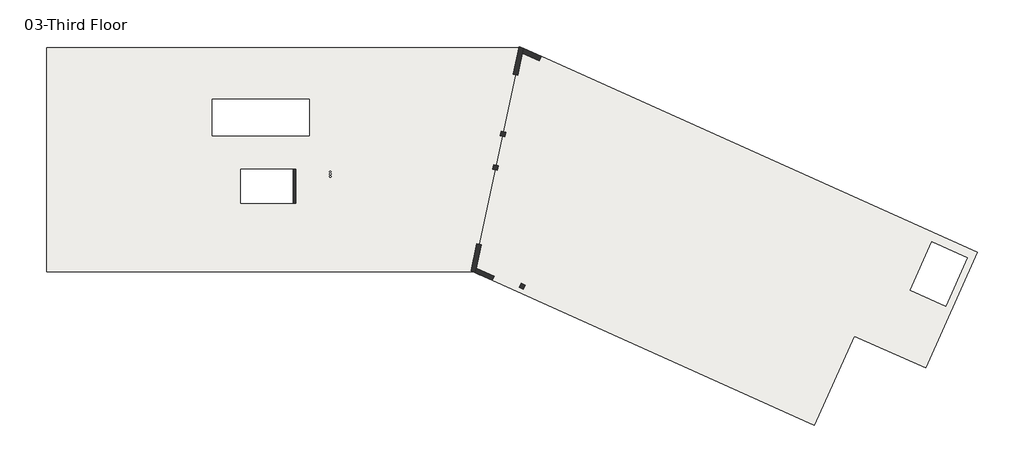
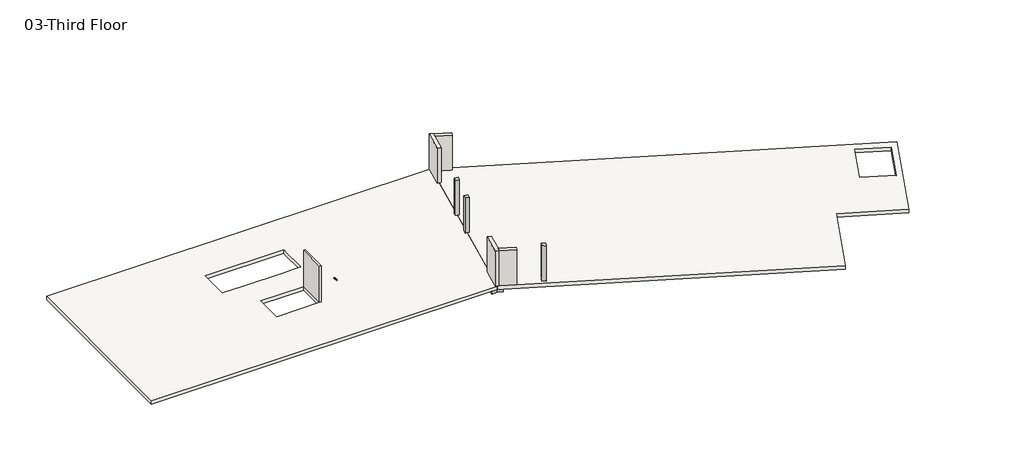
# One storey: 5 walls, 3 beams, 3 columns, 2 slabs.
"""IFC4 building model written with IfcOpenShell, lengths in millimetres."""

from ifc_helpers import new_model, si_unit, frame, origin, place, context, project, spatial, polyline, circle_curve, outline, extrude, faceted_brep, element, save
from ifc_brep_helpers import plane_surface, revolved_surface, advanced_brep

model = new_model("IFC4")

# Units and contexts
model_context = context("Model", 3, world=origin())
ifc_project = project(units=[si_unit("LENGTHUNIT", "METRE", prefix="MILLI")], contexts=[model_context])

# Site, building, storey
site = spatial("IfcSite", under=ifc_project)
building = spatial("IfcBuilding", under=site)
storey = spatial("IfcBuildingStorey", under=building, Name="03-Third Floor", Elevation=10058.4)

# Beams
placement = place(None, origin())
element("IfcBeam", 1, ObjectType="Concrete-Rectangular Beam : 33\" x 18\"", at=placement, inside=storey, context=model_context, shape_type="SweptSolid", body=[
    extrude(outline(polyline([(30288.1466789, -5386.3746605), (29418.8803327, -5200.1033006), (30631.1596114, 457.2), (31098.7387393, 457.2), (31501.5663945, 276.250679), (30288.1466789, -5386.3746605)])), frame((0.0, 0.0, 9525.0), z_axis=(0.0, 0.0, 1.0), x_axis=(1.0, 0.0, 0.0)), (0.0, 0.0, 1.0), 228.6),
])
element("IfcBeam", 2, ObjectType="Concrete-Rectangular Beam : 33\" x 18\"", at=placement, inside=storey, context=model_context, shape_type="SweptSolid", body=[
    extrude(outline(polyline([(28946.1350665, -7406.2478765), (29418.8803327, -5200.1033006), (30288.1466789, -5386.3746605), (29815.4014126, -7592.5192364), (28946.1350665, -7406.2478765)])), frame((0.0, 0.0, 9525.0), z_axis=(0.0, 0.0, 1.0), x_axis=(1.0, 0.0, 0.0)), (0.0, 0.0, 1.0), 228.6),
])
element("IfcBeam", 3, ObjectType="Concrete-Rectangular Beam : 33\" x 18\"", at=placement, inside=storey, context=model_context, shape_type="SweptSolid", body=[
    extrude(outline(polyline([(28946.1350665, -7406.2478765), (29815.4014126, -7592.5192364), (28306.6092516, -14633.549321), (27903.7815965, -14452.6), (27436.2024686, -14452.6), (28946.1350665, -7406.2478765)])), frame((0.0, 0.0, 9525.0), z_axis=(0.0, 0.0, 1.0), x_axis=(1.0, 0.0, 0.0)), (0.0, 0.0, 1.0), 228.6),
])

# Columns
element("IfcColumn", 4, ObjectType="Concrete-Rectangular-Column : 12 x 12", at=placement, inside=storey, context=model_context, shape_type="SweptSolid", body=[
    extrude(outline(polyline([(29275.3181702, -7324.750679), (29573.3523461, -7388.6151452), (29509.4878798, -7686.649321), (29211.453704, -7622.7848548), (29275.3181702, -7324.750679)])), frame((0.0, 0.0, 10058.4), z_axis=(0.0, 0.0, 1.0), x_axis=(1.0, 0.0, 0.0)), (0.0, 0.0, 1.0), 3048.0),
])
element("IfcColumn", 5, ObjectType="Concrete-Rectangular-Column : 12 x 12", at=placement, inside=storey, context=model_context, shape_type="SweptSolid", body=[
    extrude(outline(polyline([(29748.8467417, -5114.950679), (30046.8809175, -5178.8151452), (29983.0164512, -5476.849321), (29684.9822754, -5412.9848548), (29748.8467417, -5114.950679)])), frame((0.0, 0.0, 10058.4), z_axis=(0.0, 0.0, 1.0), x_axis=(1.0, 0.0, 0.0)), (0.0, 0.0, 1.0), 3048.0),
])
element("IfcColumn", 6, ObjectType="Concrete-Rectangular-Column : 12 x 12", at=placement, inside=storey, context=model_context, shape_type="SweptSolid", body=[
    extrude(outline(polyline([(31086.1980425, -15213.8565854), (31364.2351156, -15338.7502439), (31239.3414571, -15616.7873171), (30961.3043839, -15491.8936585), (31086.1980425, -15213.8565854)])), frame((0.0, 0.0, 10058.4), z_axis=(0.0, 0.0, 1.0), x_axis=(1.0, 0.0, 0.0)), (0.0, 0.0, 1.0), 3048.0),
])

# Slabs
element("IfcSlab", 7, ObjectType="RC Slab 12\"", at=placement, inside=storey, context=model_context, shape_type="AdvancedBrep", body=[
    advanced_brep(
    [(-457.2, 457.2, 9753.6), (30631.1596114, 457.2, 9753.6), (31098.7387393, 457.2, 9753.6), (27903.7815965, -14452.6, 9753.6), (27436.2024686, -14452.6, 9753.6), (-457.2, -14452.6, 9753.6), (17005.3, -2984.5, 9753.6), (10553.7, -2984.5, 9753.6), (10553.7, -5422.9, 9753.6), (10858.5, -5422.9, 9753.6), (17005.3, -5422.9, 9753.6), (17005.3, -5168.9, 9753.6), (17005.3, -3289.3, 9753.6), (15951.2, -7633.3081651, 9753.6), (12446.0, -7633.3081651, 9753.6), (12446.0, -9893.3, 9753.6), (15951.2, -9893.3, 9753.6), (18347.8020543, -8109.4381113, 9753.6), (18449.4020543, -8109.4381113, 9753.6), (18347.8020543, -7957.0381113, 9753.6), (18449.4020543, -7957.0381113, 9753.6), (18347.8020543, -7804.6381113, 9753.6), (18449.4020543, -7804.6381113, 9753.6), (31098.7387393, 457.2, 10058.4), (-457.2, 457.2, 10058.4), (-457.2, -14452.6, 10058.4), (27903.7815965, -14452.6, 10058.4), (10553.7, -2984.5, 10058.4), (17005.3, -2984.5, 10058.4), (17005.3, -3289.3, 10058.4), (17005.3, -5168.9, 10058.4), (17005.3, -5422.9, 10058.4), (16522.7, -5422.9, 10058.4), (15608.3, -5422.9, 10058.4), (14389.1, -5422.9, 10058.4), (13474.7, -5422.9, 10058.4), (12242.8, -5422.9, 10058.4), (11328.4, -5422.9, 10058.4), (10553.7, -5422.9, 10058.4), (12446.0, -7633.3081651, 10058.4), (15951.2, -7633.3081651, 10058.4), (15951.2, -9893.3, 10058.4), (12446.0, -9893.3, 10058.4), (18449.4020543, -8109.4381113, 10058.4), (18347.8020543, -8109.4381113, 10058.4), (18449.4020543, -7957.0381113, 10058.4), (18347.8020543, -7957.0381113, 10058.4), (18449.4020543, -7804.6381113, 10058.4), (18347.8020543, -7804.6381113, 10058.4)],
    [
        (0, 1),
        (1, 2),
        (2, 3),
        (3, 4),
        (4, 5),
        (5, 0),
        (6, 7),
        (7, 8),
        (8, 9),
        (9, 10),
        (10, 11),
        (11, 12),
        (12, 6),
        (13, 14),
        (14, 15),
        (15, 16),
        (16, 13),
        (17, 18, circle_curve(frame((18398.6020543, -8109.4381113, 9753.6), z_axis=(0.0, 0.0, 1.0), x_axis=(1.0, 0.0, 0.0)), 50.8)),
        (18, 17, circle_curve(frame((18398.6020543, -8109.4381113, 9753.6), z_axis=(0.0, 0.0, 1.0), x_axis=(1.0, 0.0, 0.0)), 50.8)),
        (19, 20, circle_curve(frame((18398.6020543, -7957.0381113, 9753.6), z_axis=(0.0, 0.0, 1.0), x_axis=(1.0, 0.0, 0.0)), 50.8)),
        (20, 19, circle_curve(frame((18398.6020543, -7957.0381113, 9753.6), z_axis=(0.0, 0.0, 1.0), x_axis=(1.0, 0.0, 0.0)), 50.8)),
        (21, 22, circle_curve(frame((18398.6020543, -7804.6381113, 9753.6), z_axis=(0.0, 0.0, 1.0), x_axis=(1.0, 0.0, 0.0)), 50.8)),
        (22, 21, circle_curve(frame((18398.6020543, -7804.6381113, 9753.6), z_axis=(0.0, 0.0, 1.0), x_axis=(1.0, 0.0, 0.0)), 50.8)),
        (23, 24),
        (24, 25),
        (25, 26),
        (26, 23),
        (27, 28),
        (28, 29),
        (29, 30),
        (30, 31),
        (31, 32),
        (32, 33),
        (33, 34),
        (34, 35),
        (35, 36),
        (36, 37),
        (37, 38),
        (38, 27),
        (39, 40),
        (40, 41),
        (41, 42),
        (42, 39),
        (43, 44, circle_curve(frame((18398.6020543, -8109.4381113, 10058.4), z_axis=(0.0, 0.0, -1.0), x_axis=(1.0, 0.0, 0.0)), 50.8)),
        (44, 43, circle_curve(frame((18398.6020543, -8109.4381113, 10058.4), z_axis=(0.0, 0.0, -1.0), x_axis=(1.0, 0.0, 0.0)), 50.8)),
        (45, 46, circle_curve(frame((18398.6020543, -7957.0381113, 10058.4), z_axis=(0.0, 0.0, -1.0), x_axis=(1.0, 0.0, 0.0)), 50.8)),
        (46, 45, circle_curve(frame((18398.6020543, -7957.0381113, 10058.4), z_axis=(0.0, 0.0, -1.0), x_axis=(1.0, 0.0, 0.0)), 50.8)),
        (47, 48, circle_curve(frame((18398.6020543, -7804.6381113, 10058.4), z_axis=(0.0, 0.0, -1.0), x_axis=(1.0, 0.0, 0.0)), 50.8)),
        (48, 47, circle_curve(frame((18398.6020543, -7804.6381113, 10058.4), z_axis=(0.0, 0.0, -1.0), x_axis=(1.0, 0.0, 0.0)), 50.8)),
        (0, 24),
        (23, 2),
        (26, 3),
        (25, 5),
        (6, 28),
        (27, 7),
        (38, 8),
        (31, 10),
        (13, 40),
        (39, 14),
        (42, 15),
        (41, 16),
        (17, 44),
        (43, 18),
        (19, 46),
        (45, 20),
        (21, 48),
        (47, 22),
    ],
    [
        plane_surface(frame((0.0, 457.2, 9753.6), z_axis=(0.0, 0.0, -1.0), x_axis=(1.0, 0.0, 0.0))),
        plane_surface(frame((0.0, 457.2, 10058.4), z_axis=(0.0, 0.0, 1.0), x_axis=(-1.0, 0.0, 0.0))),
        plane_surface(frame((-457.2, 457.2, 9753.6), z_axis=(0.0, 1.0, 0.0), x_axis=(0.0, 0.0, 1.0))),
        plane_surface(frame((31098.7387393, 457.2, 9753.6), z_axis=(0.9778024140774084, -0.2095290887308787, 0.0), x_axis=(0.0, 0.0, 1.0))),
        plane_surface(frame((27903.7815965, -14452.6, 9753.6), z_axis=(0.0, -1.0, 0.0), x_axis=(0.0, 0.0, 1.0))),
        plane_surface(frame((-457.2, -14452.6, 9753.6), z_axis=(-1.0, 0.0, 0.0), x_axis=(0.0, 0.0, 1.0))),
        plane_surface(frame((17005.3, -2984.5, 17068.8), z_axis=(0.0, -1.0, 0.0), x_axis=(0.0, 0.0, -1.0))),
        plane_surface(frame((10553.7, -2984.5, 17068.8), z_axis=(1.0, 0.0, 0.0), x_axis=(0.0, 0.0, -1.0))),
        plane_surface(frame((10553.7, -5422.9, 17068.8), z_axis=(0.0, 1.0, 0.0), x_axis=(0.0, 0.0, -1.0))),
        plane_surface(frame((17005.3, -5422.9, 17068.8), z_axis=(-1.0, 0.0, 0.0), x_axis=(0.0, 0.0, -1.0))),
        plane_surface(frame((15951.2, -7633.3081651, 17068.8), z_axis=(0.0, -1.0, 0.0), x_axis=(0.0, 0.0, -1.0))),
        plane_surface(frame((12446.0, -7633.3081651, 17068.8), z_axis=(1.0, 0.0, 0.0), x_axis=(0.0, 0.0, -1.0))),
        plane_surface(frame((12446.0, -9893.3, 17068.8), z_axis=(0.0, 1.0, 0.0), x_axis=(0.0, 0.0, -1.0))),
        plane_surface(frame((15951.2, -9893.3, 17068.8), z_axis=(-1.0, 0.0, 0.0), x_axis=(0.0, 0.0, -1.0))),
        revolved_surface(polyline([(18449.4020543, -8109.4381113, 10058.4), (18449.4020543, -8109.4381113, 9753.6)]), (18398.6020543, -8109.4381113, 9448.8), (0.0, 0.0, 1.0)),
        revolved_surface(polyline([(18449.4020543, -7957.0381113, 10058.4), (18449.4020543, -7957.0381113, 9753.6)]), (18398.6020543, -7957.0381113, 9448.8), (0.0, 0.0, 1.0)),
        revolved_surface(polyline([(18449.4020543, -7804.6381113, 10058.4), (18449.4020543, -7804.6381113, 9753.6)]), (18398.6020543, -7804.6381113, 9448.8), (0.0, 0.0, 1.0)),
    ],
    [
        (0, [[1, 2, 3, 4, 5, 6], [7, 8, 9, 10, 11, 12, 13], [14, 15, 16, 17], [18, 19], [20, 21], [22, 23]]),
        (1, [[24, 25, 26, 27], [28, 29, 30, 31, 32, 33, 34, 35, 36, 37, 38, 39], [40, 41, 42, 43], [44, 45], [46, 47], [48, 49]]),
        (2, [[-2, -1, 50, -24, 51]]),
        (3, [[-3, -51, -27, 52]]),
        (4, [[-5, -4, -52, -26, 53]]),
        (5, [[-6, -53, -25, -50]]),
        (6, [[54, -28, 55, -7]]),
        (7, [[-55, -39, 56, -8]]),
        (8, [[-56, -38, -37, -36, -35, -34, -33, -32, 57, -10, -9]]),
        (9, [[-54, -13, -12, -11, -57, -31, -30, -29]]),
        (10, [[58, -40, 59, -14]]),
        (11, [[-59, -43, 60, -15]]),
        (12, [[-60, -42, 61, -16]]),
        (13, [[-58, -17, -61, -41]]),
        (14, [[62, -44, 63, -18]]),
        (14, [[-62, -19, -63, -45]]),
        (15, [[64, -46, 65, -20]]),
        (15, [[-64, -21, -65, -47]]),
        (16, [[66, -48, 67, -22]]),
        (16, [[-66, -23, -67, -49]]),
    ],
),
])
element("IfcSlab", 8, ObjectType="RC Slab 12\"", at=placement, inside=storey, context=model_context, shape_type="Brep", body=[
    faceted_brep([(61413.0546278, -13159.9258537, 9753.6), (57962.8673107, -20840.7, 9753.6), (53236.2370668, -18717.5078049, 9753.6), (50577.0429205, -24637.3804878, 9753.6), (28306.6092516, -14633.549321, 9753.6), (27903.7815965, -14452.6, 9753.6), (31098.7387393, 457.2, 9753.6), (31501.5663945, 276.250679, 9753.6), (59309.9346278, -16726.0858537, 9753.6), (60746.211701, -13528.6595122, 9753.6), (58382.896579, -12467.0634146, 9753.6), (56946.6195059, -15664.4897561, 9753.6), (31364.2351156, -15338.7502439, 9753.6), (31086.1980425, -15213.8565854, 9753.6), (30961.3043839, -15491.8936585, 9753.6), (31239.3414571, -15616.7873171, 9753.6), (57962.8673107, -20840.7, 10058.4), (61413.0546278, -13159.9258537, 10058.4), (32422.724802, -137.5317073, 10058.4), (31240.9132058, 393.3355338, 10058.4), (31098.7387393, 457.2, 10058.4), (27903.7815965, -14452.6, 10058.4), (28045.956063, -14516.4644662, 10058.4), (29168.1882864, -15020.5687805, 10058.4), (50577.0429205, -24637.3804878, 10058.4), (53236.2370668, -18717.5078049, 10058.4), (60746.211701, -13528.6595122, 10058.4), (59309.9346278, -16726.0858537, 10058.4), (56946.6195059, -15664.4897561, 10058.4), (58382.896579, -12467.0634146, 10058.4), (31086.1980425, -15213.8565854, 10058.4), (31364.2351156, -15338.7502439, 10058.4), (31239.3414571, -15616.7873171, 10058.4), (30961.3043839, -15491.8936585, 10058.4)], [[[0, 1, 2, 3, 4, 5, 6, 7], [8, 9, 10, 11], [12, 13, 14, 15]], [[16, 17, 18, 19, 20, 21, 22, 23, 24, 25], [26, 27, 28, 29], [30, 31, 32, 33]], [[1, 0, 17, 16]], [[2, 1, 16, 25]], [[3, 2, 25, 24]], [[5, 4, 3, 24, 23, 22, 21]], [[6, 5, 21, 20]], [[0, 7, 6, 20, 19, 18, 17]], [[8, 27, 26, 9]], [[9, 26, 29, 10]], [[10, 29, 28, 11]], [[27, 8, 11, 28]], [[12, 31, 30, 13]], [[31, 12, 15, 32]], [[32, 15, 14, 33]], [[33, 14, 13, 30]]]),
])

# Walls
element("IfcWall", 9, ObjectType="6\" Blockwork with render", at=placement, inside=storey, context=model_context, shape_type="SweptSolid", body=[
    extrude(outline(polyline([(16103.6, -7632.7), (16103.6, -9893.3), (15951.2, -9893.3), (15951.2, -7632.7), (16103.6, -7632.7)])), frame((0.0, 0.0, 10058.4), z_axis=(0.0, 0.0, 1.0), x_axis=(1.0, 0.0, 0.0)), (0.0, 0.0, 1.0), 3149.6),
])
element("IfcWall", 10, ObjectType="RC Wall 12\"", at=placement, inside=storey, context=model_context, shape_type="Brep", body=[
    faceted_brep([(30956.5642728, 521.0644662, 10058.4), (30564.3601247, -1309.221558, 10058.4), (30564.3601247, -1309.221558, 13106.4), (30956.5642728, 521.0644662, 13106.4), (30862.3943005, -1373.0860243, 10058.4), (31175.5989201, 88.5355338, 10058.4), (31240.9132058, 393.3355338, 10058.4), (31240.9132058, 393.3355338, 13106.4), (31175.5989201, 88.5355338, 13106.4), (30862.3943005, -1373.0860243, 13106.4), (31098.7387393, 457.2, 10058.4)], [[[0, 1, 2, 3]], [[4, 5, 6, 7, 8, 9]], [[1, 0, 10, 6, 5, 4]], [[1, 4, 9, 2]], [[6, 10, 0, 3, 7]], [[3, 2, 9, 8, 7]]]),
])
element("IfcWall", 11, ObjectType="RC Wall 12\"", at=placement, inside=storey, context=model_context, shape_type="SweptSolid", body=[
    extrude(outline(polyline([(32297.8311435, -415.5687805), (31175.5989201, 88.5355338), (31240.9132058, 393.3355338), (32422.724802, -137.5317073), (32297.8311435, -415.5687805)])), frame((0.0, 0.0, 10058.4), z_axis=(0.0, 0.0, 1.0), x_axis=(1.0, 0.0, 0.0)), (0.0, 0.0, 1.0), 3048.0),
])
element("IfcWall", 12, ObjectType="RC Wall 12\"", at=placement, inside=storey, context=model_context, shape_type="Brep", body=[
    faceted_brep([(28150.0697886, -12575.9097931, 10058.4), (27761.6071299, -14388.7355338, 10058.4), (27761.6071299, -14388.7355338, 13106.4), (28150.0697886, -12575.9097931, 13106.4), (28045.956063, -14516.4644662, 10058.4), (28111.2703487, -14211.6644662, 10058.4), (28448.1039645, -12639.7742594, 10058.4), (28448.1039645, -12639.7742594, 13106.4), (28111.2703487, -14211.6644662, 13106.4), (28045.956063, -14516.4644662, 13106.4), (27903.7815965, -14452.6, 10058.4)], [[[0, 1, 2, 3]], [[4, 5, 6, 7, 8, 9]], [[1, 0, 6, 5, 4, 10]], [[6, 0, 3, 7]], [[1, 10, 4, 9, 2]], [[3, 2, 9, 8, 7]]]),
])
element("IfcWall", 13, ObjectType="RC Wall 12\"", at=placement, inside=storey, context=model_context, shape_type="SweptSolid", body=[
    extrude(outline(polyline([(29168.1882864, -15020.5687805), (28045.956063, -14516.4644662), (28111.2703487, -14211.6644662), (29293.0819449, -14742.5317073), (29168.1882864, -15020.5687805)])), frame((0.0, 0.0, 10058.4), z_axis=(0.0, 0.0, 1.0), x_axis=(1.0, 0.0, 0.0)), (0.0, 0.0, 1.0), 3048.0),
])

save(model, "model.ifc")
